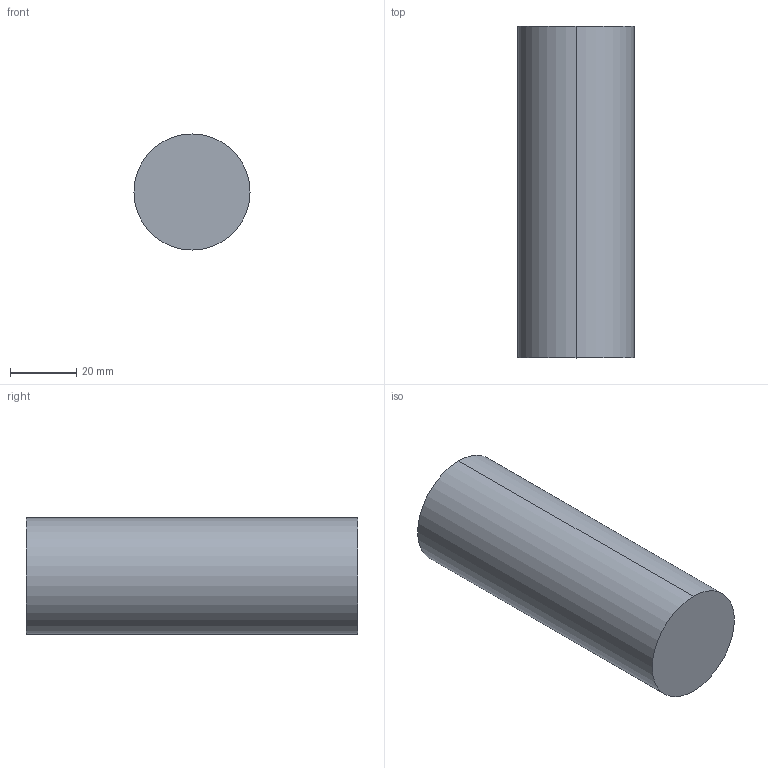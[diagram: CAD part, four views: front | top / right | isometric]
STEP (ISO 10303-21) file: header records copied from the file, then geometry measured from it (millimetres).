
FILE_DESCRIPTION (( 'STEP AP214' ), '1' );
FILE_NAME ('T0339.STEP', '2026-08-28T09:44:04', ( '' ), ( '' ), 'SwSTEP 2.0', 'SolidWorks 2023', '' );
FILE_SCHEMA (( 'AUTOMOTIVE_DESIGN' ));
Length unit declared in the file: millimetre
Products named in the file (1): T0339
Bounding box: 35 x 100 x 35 mm (x, y, z)
Volume: 92694.9 mm3; surface area: 13424.4 mm2
Topology: 1 solids, 1 shells, 9 faces, 16 edges, 10 vertices
Faces by surface type: cylinder 4, plane 3, torus 2
Entity records: 249 total; most frequent: DIRECTION 48, CARTESIAN_POINT 36, ORIENTED_EDGE 32, AXIS2_PLACEMENT_3D 22, EDGE_CURVE 16, CIRCLE 12, VERTEX_POINT 10, EDGE_LOOP 10
